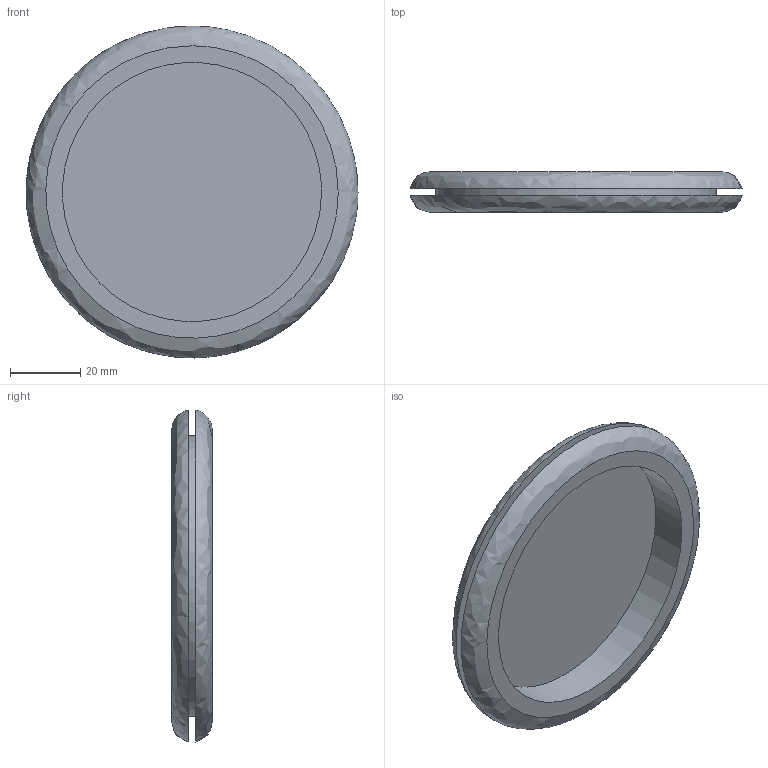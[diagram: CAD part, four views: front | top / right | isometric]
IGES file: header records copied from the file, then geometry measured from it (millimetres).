
Global section: file name: PR3-80; native system: Autodesk Inventor 2015; preprocessor: unknown; author: user; date: 20220621.144449; units: millimetre
Bounding box: 94.82 x 11.5 x 94.82 mm (x, y, z)
Volume: 28046.2 mm3; surface area: 22523.8 mm2
Topology: 1 solids, 1 shells, 9 faces, 18 edges, 14 vertices
Faces by surface type: bspline 9
